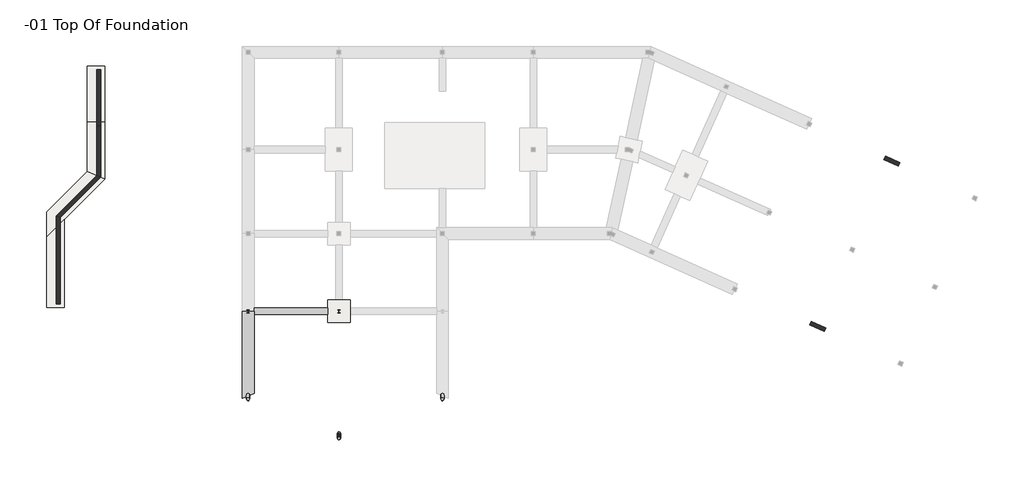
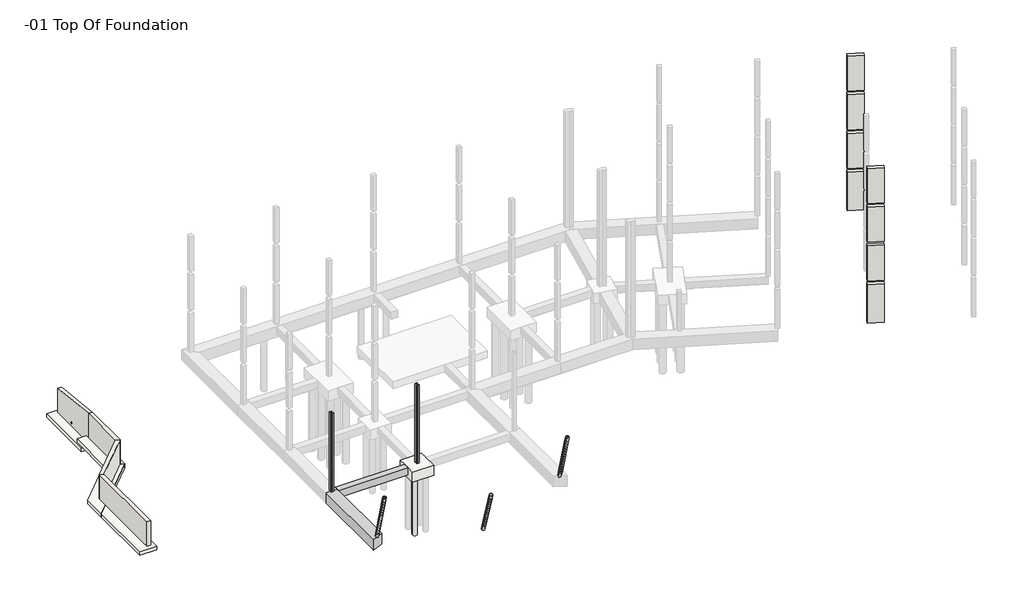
# One storey, part 1 of 4: 6 walls, 5 columns, 4 footings, 2 beams, 2 slabs.
"""IFC4 building model written with IfcOpenShell, lengths in millimetres."""

from ifc_helpers import new_model, si_unit, point, frame, frame_2d, origin, place, context, project, spatial, polyline, circle_curve, ellipse_curve, trimmed, segment, composite_curve, outline, extrude, faceted_brep, transform, mapped, element, save
from ifc_brep_helpers import plane_surface, cylinder_surface, revolved_surface, advanced_brep
from components import w_shapes_column_w10x33_60aa4128

model = new_model("IFC4")

# Units and contexts
model_context = context("Model", 3, world=origin())
ifc_project = project(units=[si_unit("LENGTHUNIT", "METRE", prefix="MILLI")], contexts=[model_context])

# Site, building, storey
site = spatial("IfcSite", under=ifc_project)
building = spatial("IfcBuilding", under=site)
storey = spatial("IfcBuildingStorey", under=building, Name="-01 Top Of Foundation", Elevation=-304.8)

# Beams
placement = place(None, origin())
element("IfcBeam", 1, ObjectType="Ring Beam : 12 x 24", at=placement, inside=storey, context=model_context, shape_type="Brep", body=[
    faceted_brep([(457.2, -19748.5, -304.8), (457.2, -20002.5, -304.8), (457.2, -20256.5, -304.8), (6146.8, -20256.5, -304.8), (6146.8, -19748.5, -304.8), (457.2, -19748.5, -889.0), (6146.8, -19748.5, -889.0), (457.2, -19773.9, -914.4), (6146.8, -19773.9, -914.4), (457.2, -20231.1, -914.4), (6146.8, -20231.1, -914.4), (457.2, -20256.5, -889.0), (6146.8, -20256.5, -889.0)], [[[0, 1, 2, 3, 4]], [[5, 0, 4, 6]], [[7, 5, 6, 8]], [[9, 7, 8, 10]], [[11, 9, 10, 12]], [[2, 11, 12, 3]], [[9, 11, 2, 1, 0, 5, 7]], [[4, 3, 12, 10, 8, 6]]]),
])
element("IfcBeam", 2, ObjectType="Ring Beam : 16 x 32", at=placement, inside=storey, context=model_context, shape_type="Brep", body=[
    faceted_brep([(-457.2, -26723.3402351, -304.8), (457.2, -26332.3874204, -304.8), (457.2, -20256.5, -304.8), (457.2, -20002.5, -304.8), (-457.2, -20002.5, -304.8), (-457.2, -26723.3402351, -1193.8), (-457.2, -20002.5, -1193.8), (-431.8, -26712.4804347, -1219.2), (-431.8, -20002.5, -1219.2), (431.8, -26343.2472208, -1219.2), (431.8, -20002.5, -1219.2), (457.2, -26332.3874204, -1193.8), (457.2, -20002.5, -1193.8)], [[[0, 1, 2, 3, 4]], [[5, 0, 4, 6]], [[7, 5, 6, 8]], [[9, 7, 8, 10]], [[11, 9, 10, 12]], [[1, 11, 12, 3, 2]], [[1, 0, 5, 7, 9, 11]], [[3, 12, 10, 8, 6, 4]]]),
])

# Columns
element("IfcColumn", 3, ObjectType="HSS Round-Column : HSS10X.500", at=placement, inside=storey, context=model_context, shape_type="AdvancedBrep", body=[
    advanced_brep(
    [(6883.4, -29416.3085227, -359.2102448), (7137.4, -29416.3085227, -359.2102448), (6896.1, -29416.3085227, -359.2102448), (7124.7, -29416.3085227, -359.2102448), (6883.4, -30549.160265, 3300.5302448), (7137.4, -30549.160265, 3300.5302448), (6896.1, -30549.160265, 3300.5302448), (7124.7, -30549.160265, 3300.5302448)],
    [
        (0, 1, circle_curve(frame((7010.4, -29416.3085227, -359.2102448), z_axis=(0.0, 0.29570157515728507, -0.9552803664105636), x_axis=(1.0, 0.0, 0.0)), 127.0)),
        (1, 0, circle_curve(frame((7010.4, -29416.3085227, -359.2102448), z_axis=(0.0, 0.29570157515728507, -0.9552803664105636), x_axis=(1.0, 0.0, 0.0)), 127.0)),
        (2, 3, circle_curve(frame((7010.4, -29416.3085227, -359.2102448), z_axis=(0.0, -0.29570157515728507, 0.9552803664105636), x_axis=(1.0, 0.0, 0.0)), 114.3)),
        (3, 2, circle_curve(frame((7010.4, -29416.3085227, -359.2102448), z_axis=(0.0, -0.29570157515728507, 0.9552803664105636), x_axis=(1.0, 0.0, 0.0)), 114.3)),
        (4, 5, circle_curve(frame((7010.4, -30549.160265, 3300.5302448), z_axis=(0.0, 0.29570157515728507, -0.9552803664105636), x_axis=(1.0, 0.0, 0.0)), 127.0)),
        (5, 1),
        (0, 4),
        (5, 4, circle_curve(frame((7010.4, -30549.160265, 3300.5302448), z_axis=(0.0, 0.29570157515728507, -0.9552803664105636), x_axis=(1.0, 0.0, 0.0)), 127.0)),
        (6, 7, circle_curve(frame((7010.4, -30549.160265, 3300.5302448), z_axis=(0.0, -0.29570157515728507, 0.9552803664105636), x_axis=(1.0, 0.0, 0.0)), 114.3)),
        (7, 3),
        (2, 6),
        (7, 6, circle_curve(frame((7010.4, -30549.160265, 3300.5302448), z_axis=(0.0, -0.29570157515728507, 0.9552803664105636), x_axis=(1.0, 0.0, 0.0)), 114.3)),
    ],
    [
        plane_surface(frame((7137.4, -29416.3085227, -359.2102448), z_axis=(0.0, 0.295701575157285, -0.9552803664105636), x_axis=(0.0, -0.9552803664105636, -0.295701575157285))),
        cylinder_surface(frame((7010.4, -29416.3085227, -359.2102448), z_axis=(0.0, -0.29570157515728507, 0.9552803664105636), x_axis=(1.0, 0.0, 0.0)), 127.0),
        revolved_surface(polyline([(7124.7, -29416.308522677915, -359.21024479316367), (7124.7, -30549.160264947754, 3300.530244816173)]), (7010.4, -29527.5, 0.0), (0.0, 0.29570157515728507, -0.9552803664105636)),
        plane_surface(frame((7137.4, -30549.160265, 3300.5302448), z_axis=(0.0, -0.295701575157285, 0.9552803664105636), x_axis=(0.0, 0.9552803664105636, 0.295701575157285))),
    ],
    [
        (0, [[1, 2], [3, 4]]),
        (1, [[5, 6, -1, 7]]),
        (1, [[8, -7, -2, -6]]),
        (2, [[9, 10, -3, 11]]),
        (2, [[12, -11, -4, -10]]),
        (3, [[-8, -5], [-12, -9]]),
    ],
),
    advanced_brep(
    [(6883.4, -30549.160265, 3300.5302448), (7137.4, -30549.160265, 3300.5302448), (6896.1, -30549.160265, 3300.5302448), (7124.7, -30549.160265, 3300.5302448), (7137.4, -29527.5, 0.0), (6883.4, -29527.5, 0.0), (7124.7, -29527.5, 0.0), (6896.1, -29527.5, 0.0)],
    [
        (0, 1, circle_curve(frame((7010.4, -30549.160265, 3300.5302448), z_axis=(0.0, -0.29570157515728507, 0.9552803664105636), x_axis=(1.0, 0.0, 0.0)), 127.0)),
        (1, 0, circle_curve(frame((7010.4, -30549.160265, 3300.5302448), z_axis=(0.0, -0.29570157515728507, 0.9552803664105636), x_axis=(1.0, 0.0, 0.0)), 127.0)),
        (2, 3, circle_curve(frame((7010.4, -30549.160265, 3300.5302448), z_axis=(0.0, 0.29570157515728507, -0.9552803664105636), x_axis=(1.0, 0.0, 0.0)), 114.3)),
        (3, 2, circle_curve(frame((7010.4, -30549.160265, 3300.5302448), z_axis=(0.0, 0.29570157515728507, -0.9552803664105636), x_axis=(1.0, 0.0, 0.0)), 114.3)),
        (1, 4),
        (4, 5, ellipse_curve(frame((7010.4, -29527.5, 0.0), z_axis=(0.0, 0.0, 1.0), x_axis=(0.0, -1.0, 0.0)), 132.9452635, 127.0)),
        (5, 0),
        (5, 4, ellipse_curve(frame((7010.4, -29527.5, 0.0), z_axis=(0.0, 0.0, 1.0), x_axis=(0.0, -1.0, 0.0)), 132.9452635, 127.0)),
        (3, 6),
        (6, 7, ellipse_curve(frame((7010.4, -29527.5, 0.0), z_axis=(0.0, 0.0, -1.0), x_axis=(0.0, 1.0, 0.0)), 119.6507371, 114.3)),
        (7, 2),
        (7, 6, ellipse_curve(frame((7010.4, -29527.5, 0.0), z_axis=(0.0, 0.0, -1.0), x_axis=(0.0, 1.0, 0.0)), 119.6507371, 114.3)),
    ],
    [
        plane_surface(frame((7137.4, -30549.160265, 3300.5302448), z_axis=(0.0, -0.295701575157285, 0.9552803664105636), x_axis=(0.0, 0.9552803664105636, 0.295701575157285))),
        cylinder_surface(frame((7010.4, -29416.3085227, -359.2102448), z_axis=(0.0, -0.29570157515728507, 0.9552803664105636), x_axis=(1.0, 0.0, 0.0)), 127.0),
        revolved_surface(polyline([(7124.7, -29517.037808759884, -33.798690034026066), (7124.7, -30549.160264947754, 3300.530244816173)]), (7010.4, -29527.5, 0.0), (0.0, 0.29570157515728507, -0.9552803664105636)),
        plane_surface(frame((7010.4, -29527.5, 0.0), z_axis=(0.0, 0.0, -1.0), x_axis=(1.0, 0.0, 0.0))),
    ],
    [
        (0, [[1, 2], [3, 4]]),
        (1, [[-2, 5, 6, 7]]),
        (1, [[-1, -7, 8, -5]]),
        (2, [[-4, 9, 10, 11]]),
        (2, [[-3, -11, 12, -9]]),
        (3, [[-6, -8], [-10, -12]]),
    ],
),
    advanced_brep(
    [(7137.4, -30437.9687876, 2941.32), (7137.4, -29527.5, 0.0), (6883.4, -29527.5, 0.0), (6883.4, -30437.9687876, 2941.32), (6896.1, -29527.5, 0.0), (7124.7, -29527.5, 0.0), (7124.7, -30437.9687876, 2941.32), (6896.1, -30437.9687876, 2941.32)],
    [
        (0, 1),
        (1, 2, ellipse_curve(frame((7010.4, -29527.5, 0.0), z_axis=(0.0, 0.0, 1.0), x_axis=(0.0, -1.0, 0.0)), 132.9452635, 127.0)),
        (2, 3),
        (3, 0, ellipse_curve(frame((7010.4, -30437.9687876, 2941.32), z_axis=(0.0, 0.0, -1.0), x_axis=(0.0, -1.0, 0.0)), 132.9452635, 127.0)),
        (2, 1, ellipse_curve(frame((7010.4, -29527.5, 0.0), z_axis=(0.0, 0.0, 1.0), x_axis=(0.0, -1.0, 0.0)), 132.9452635, 127.0)),
        (0, 3, ellipse_curve(frame((7010.4, -30437.9687876, 2941.32), z_axis=(0.0, 0.0, -1.0), x_axis=(0.0, -1.0, 0.0)), 132.9452635, 127.0)),
        (4, 5, ellipse_curve(frame((7010.4, -29527.5, 0.0), z_axis=(0.0, 0.0, 1.0), x_axis=(0.0, 1.0, 0.0)), 119.6507371, 114.3)),
        (5, 4, ellipse_curve(frame((7010.4, -29527.5, 0.0), z_axis=(0.0, 0.0, 1.0), x_axis=(0.0, 1.0, 0.0)), 119.6507371, 114.3)),
        (6, 5),
        (4, 7),
        (7, 6, ellipse_curve(frame((7010.4, -30437.9687876, 2941.32), z_axis=(0.0, 0.0, 1.0), x_axis=(0.0, 1.0, 0.0)), 119.6507371, 114.3)),
        (6, 7, ellipse_curve(frame((7010.4, -30437.9687876, 2941.32), z_axis=(0.0, 0.0, 1.0), x_axis=(0.0, 1.0, 0.0)), 119.6507371, 114.3)),
    ],
    [
        cylinder_surface(frame((7010.4, -29416.3085227, -359.2102448), z_axis=(0.0, -0.29570157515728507, 0.9552803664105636), x_axis=(1.0, 0.0, 0.0)), 127.0),
        plane_surface(frame((7010.4, -29527.5, 0.0), z_axis=(0.0, 0.0, -1.0), x_axis=(1.0, 0.0, 0.0))),
        revolved_surface(polyline([(7124.7, -29517.037808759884, -33.798690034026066), (7124.7, -30448.43097885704, 2975.1186900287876)]), (7010.4, -29527.5, 0.0), (0.0, 0.29570157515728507, -0.9552803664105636)),
        plane_surface(frame((7010.4, -30441.9, 2941.32), z_axis=(0.0, 0.0, 1.0), x_axis=(-1.0, 0.0, 0.0))),
    ],
    [
        (0, [[1, 2, 3, 4]]),
        (0, [[-3, 5, -1, 6]]),
        (1, [[-2, -5], [7, 8]]),
        (2, [[9, -7, 10, 11]]),
        (2, [[-10, -8, -9, 12]]),
        (3, [[-4, -6], [-11, -12]]),
    ],
),
])
element("IfcColumn", 4, ObjectType="HSS Round-Column : HSS10X.500", at=placement, inside=storey, context=model_context, shape_type="AdvancedBrep", body=[
    advanced_brep(
    [(-127.0, -26432.3335696, -359.2102448), (127.0, -26432.3335696, -359.2102448), (-114.3, -26432.3335696, -359.2102448), (114.3, -26432.3335696, -359.2102448), (-127.0, -27542.6664304, 3712.0102448), (127.0, -27542.6664304, 3712.0102448), (-114.3, -27542.6664304, 3712.0102448), (114.3, -27542.6664304, 3712.0102448)],
    [
        (0, 1, circle_curve(frame((0.0, -26432.3335696, -359.2102448), z_axis=(0.0, 0.26311740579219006, -0.9647638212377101), x_axis=(1.0000000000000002, 0.0, 0.0)), 127.0)),
        (1, 0, circle_curve(frame((0.0, -26432.3335696, -359.2102448), z_axis=(0.0, 0.26311740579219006, -0.9647638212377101), x_axis=(1.0000000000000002, 0.0, 0.0)), 127.0)),
        (2, 3, circle_curve(frame((0.0, -26432.3335696, -359.2102448), z_axis=(0.0, -0.26311740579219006, 0.9647638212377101), x_axis=(1.0000000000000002, 0.0, 0.0)), 114.3)),
        (3, 2, circle_curve(frame((0.0, -26432.3335696, -359.2102448), z_axis=(0.0, -0.26311740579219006, 0.9647638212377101), x_axis=(1.0000000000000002, 0.0, 0.0)), 114.3)),
        (4, 5, circle_curve(frame((0.0, -27542.6664304, 3712.0102448), z_axis=(0.0, 0.26311740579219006, -0.9647638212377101), x_axis=(1.0000000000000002, 0.0, 0.0)), 127.0)),
        (5, 1),
        (0, 4),
        (5, 4, circle_curve(frame((0.0, -27542.6664304, 3712.0102448), z_axis=(0.0, 0.26311740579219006, -0.9647638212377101), x_axis=(1.0000000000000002, 0.0, 0.0)), 127.0)),
        (6, 7, circle_curve(frame((0.0, -27542.6664304, 3712.0102448), z_axis=(0.0, -0.26311740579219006, 0.9647638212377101), x_axis=(1.0000000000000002, 0.0, 0.0)), 114.3)),
        (7, 3),
        (2, 6),
        (7, 6, circle_curve(frame((0.0, -27542.6664304, 3712.0102448), z_axis=(0.0, -0.26311740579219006, 0.9647638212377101), x_axis=(1.0000000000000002, 0.0, 0.0)), 114.3)),
    ],
    [
        plane_surface(frame((127.0, -26432.3335696, -359.2102448), z_axis=(0.0, 0.26311740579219, -0.96476382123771), x_axis=(0.0, -0.96476382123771, -0.26311740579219))),
        cylinder_surface(frame((0.0, -26432.3335696, -359.2102448), z_axis=(0.0, -0.26311740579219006, 0.9647638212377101), x_axis=(1.0000000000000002, 0.0, 0.0)), 127.0),
        revolved_surface(polyline([(114.30000000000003, -26432.33356959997, -359.21024479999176), (114.30000000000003, -27542.666430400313, 3712.0102447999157)]), (0.0, -26530.3, 0.0), (0.0, 0.26311740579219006, -0.9647638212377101)),
        plane_surface(frame((127.0, -27542.6664304, 3712.0102448), z_axis=(0.0, -0.26311740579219, 0.96476382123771), x_axis=(0.0, 0.96476382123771, 0.26311740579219))),
    ],
    [
        (0, [[1, 2], [3, 4]]),
        (1, [[5, 6, -1, 7]]),
        (1, [[8, -7, -2, -6]]),
        (2, [[9, 10, -3, 11]]),
        (2, [[12, -11, -4, -10]]),
        (3, [[-8, -5], [-12, -9]]),
    ],
),
    advanced_brep(
    [(-127.0, -27542.6664304, 3712.0102448), (127.0, -27542.6664304, 3712.0102448), (-114.3, -27542.6664304, 3712.0102448), (114.3, -27542.6664304, 3712.0102448), (127.0, -26530.3, 0.0), (-127.0, -26530.3, 0.0), (114.3, -26530.3, 0.0), (-114.3, -26530.3, 0.0)],
    [
        (0, 1, circle_curve(frame((0.0, -27542.6664304, 3712.0102448), z_axis=(0.0, -0.26311740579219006, 0.9647638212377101), x_axis=(1.0000000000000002, 0.0, 0.0)), 127.0)),
        (1, 0, circle_curve(frame((0.0, -27542.6664304, 3712.0102448), z_axis=(0.0, -0.26311740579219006, 0.9647638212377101), x_axis=(1.0000000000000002, 0.0, 0.0)), 127.0)),
        (2, 3, circle_curve(frame((0.0, -27542.6664304, 3712.0102448), z_axis=(0.0, 0.26311740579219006, -0.9647638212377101), x_axis=(1.0000000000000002, 0.0, 0.0)), 114.3)),
        (3, 2, circle_curve(frame((0.0, -27542.6664304, 3712.0102448), z_axis=(0.0, 0.26311740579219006, -0.9647638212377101), x_axis=(1.0000000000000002, 0.0, 0.0)), 114.3)),
        (1, 4),
        (4, 5, ellipse_curve(frame((0.0, -26530.3, 0.0), z_axis=(0.0, 0.0, 1.0), x_axis=(0.0, -1.0, 0.0)), 131.6384354, 127.0)),
        (5, 0),
        (5, 4, ellipse_curve(frame((0.0, -26530.3, 0.0), z_axis=(0.0, 0.0, 1.0), x_axis=(0.0, -1.0, 0.0)), 131.6384354, 127.0)),
        (3, 6),
        (6, 7, ellipse_curve(frame((0.0, -26530.3, 0.0), z_axis=(0.0, 0.0, -1.0), x_axis=(0.0, 1.0, 0.0)), 118.4745919, 114.3)),
        (7, 2),
        (7, 6, ellipse_curve(frame((0.0, -26530.3, 0.0), z_axis=(0.0, 0.0, -1.0), x_axis=(0.0, 1.0, 0.0)), 118.4745919, 114.3)),
    ],
    [
        plane_surface(frame((127.0, -27542.6664304, 3712.0102448), z_axis=(0.0, -0.26311740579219, 0.96476382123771), x_axis=(0.0, 0.96476382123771, 0.26311740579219))),
        cylinder_surface(frame((0.0, -26432.3335696, -359.2102448), z_axis=(0.0, -0.26311740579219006, 0.9647638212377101), x_axis=(1.0000000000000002, 0.0, 0.0)), 127.0),
        revolved_surface(polyline([(114.30000000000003, -26522.097912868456, -30.074319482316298), (114.30000000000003, -27542.666430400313, 3712.0102447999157)]), (0.0, -26530.3, 0.0), (0.0, 0.26311740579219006, -0.9647638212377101)),
        plane_surface(frame((0.0, -26530.3, 0.0), z_axis=(0.0, 0.0, -1.0), x_axis=(1.0, 0.0, 0.0))),
    ],
    [
        (0, [[1, 2], [3, 4]]),
        (1, [[-2, 5, 6, 7]]),
        (1, [[-1, -7, 8, -5]]),
        (2, [[-4, 9, 10, 11]]),
        (2, [[-3, -11, 12, -9]]),
        (3, [[-6, -8], [-10, -12]]),
    ],
),
    advanced_brep(
    [(127.0, -27444.7, 3352.8), (127.0, -26530.3, 0.0), (-127.0, -26530.3, 0.0), (-127.0, -27444.7, 3352.8), (-114.3, -26530.3, 0.0), (114.3, -26530.3, 0.0), (114.3, -27444.7, 3352.8), (-114.3, -27444.7, 3352.8)],
    [
        (0, 1),
        (1, 2, ellipse_curve(frame((0.0, -26530.3, 0.0), z_axis=(0.0, 0.0, 1.0), x_axis=(0.0, -1.0, 0.0)), 131.6384354, 127.0)),
        (2, 3),
        (3, 0, ellipse_curve(frame((0.0, -27444.7, 3352.8), z_axis=(0.0, 0.0, -1.0), x_axis=(0.0, -1.0, 0.0)), 131.6384354, 127.0)),
        (2, 1, ellipse_curve(frame((0.0, -26530.3, 0.0), z_axis=(0.0, 0.0, 1.0), x_axis=(0.0, -1.0, 0.0)), 131.6384354, 127.0)),
        (0, 3, ellipse_curve(frame((0.0, -27444.7, 3352.8), z_axis=(0.0, 0.0, -1.0), x_axis=(0.0, -1.0, 0.0)), 131.6384354, 127.0)),
        (4, 5, ellipse_curve(frame((0.0, -26530.3, 0.0), z_axis=(0.0, 0.0, 1.0), x_axis=(0.0, 1.0, 0.0)), 118.4745919, 114.3)),
        (5, 4, ellipse_curve(frame((0.0, -26530.3, 0.0), z_axis=(0.0, 0.0, 1.0), x_axis=(0.0, 1.0, 0.0)), 118.4745919, 114.3)),
        (6, 5),
        (4, 7),
        (7, 6, ellipse_curve(frame((0.0, -27444.7, 3352.8), z_axis=(0.0, 0.0, 1.0), x_axis=(0.0, 1.0, 0.0)), 118.4745919, 114.3)),
        (6, 7, ellipse_curve(frame((0.0, -27444.7, 3352.8), z_axis=(0.0, 0.0, 1.0), x_axis=(0.0, 1.0, 0.0)), 118.4745919, 114.3)),
    ],
    [
        cylinder_surface(frame((0.0, -26432.3335696, -359.2102448), z_axis=(0.0, -0.26311740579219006, 0.9647638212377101), x_axis=(1.0000000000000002, 0.0, 0.0)), 127.0),
        plane_surface(frame((0.0, -26530.3, 0.0), z_axis=(0.0, 0.0, -1.0), x_axis=(1.0, 0.0, 0.0))),
        revolved_surface(polyline([(114.30000000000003, -26522.097912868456, -30.074319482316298), (114.30000000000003, -27452.902087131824, 3382.8743194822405)]), (0.0, -26530.3, 0.0), (0.0, 0.26311740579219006, -0.9647638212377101)),
        plane_surface(frame((0.0, -27444.7, 3352.8), z_axis=(0.0, 0.0, 1.0), x_axis=(-1.0, 0.0, 0.0))),
    ],
    [
        (0, [[1, 2, 3, 4]]),
        (0, [[-3, 5, -1, 6]]),
        (1, [[-2, -5], [7, 8]]),
        (2, [[9, -7, 10, 11]]),
        (2, [[-10, -8, -9, 12]]),
        (3, [[-4, -6], [-11, -12]]),
    ],
),
])
element("IfcColumn", 5, ObjectType="HSS Round-Column : HSS10X.500", at=placement, inside=storey, context=model_context, shape_type="AdvancedBrep", body=[
    advanced_brep(
    [(14871.7, -26432.3335696, -359.2102448), (15125.7, -26432.3335696, -359.2102448), (14884.4, -26432.3335696, -359.2102448), (15113.0, -26432.3335696, -359.2102448), (14871.7, -27542.6664304, 3712.0102448), (15125.7, -27542.6664304, 3712.0102448), (14884.4, -27542.6664304, 3712.0102448), (15113.0, -27542.6664304, 3712.0102448)],
    [
        (0, 1, circle_curve(frame((14998.7, -26432.3335696, -359.2102448), z_axis=(0.0, 0.26311740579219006, -0.9647638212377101), x_axis=(1.0000000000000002, 0.0, 0.0)), 127.0)),
        (1, 0, circle_curve(frame((14998.7, -26432.3335696, -359.2102448), z_axis=(0.0, 0.26311740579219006, -0.9647638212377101), x_axis=(1.0000000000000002, 0.0, 0.0)), 127.0)),
        (2, 3, circle_curve(frame((14998.7, -26432.3335696, -359.2102448), z_axis=(0.0, -0.26311740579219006, 0.9647638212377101), x_axis=(1.0000000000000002, 0.0, 0.0)), 114.3)),
        (3, 2, circle_curve(frame((14998.7, -26432.3335696, -359.2102448), z_axis=(0.0, -0.26311740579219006, 0.9647638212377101), x_axis=(1.0000000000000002, 0.0, 0.0)), 114.3)),
        (4, 5, circle_curve(frame((14998.7, -27542.6664304, 3712.0102448), z_axis=(0.0, 0.26311740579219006, -0.9647638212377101), x_axis=(1.0000000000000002, 0.0, 0.0)), 127.0)),
        (5, 1),
        (0, 4),
        (5, 4, circle_curve(frame((14998.7, -27542.6664304, 3712.0102448), z_axis=(0.0, 0.26311740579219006, -0.9647638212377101), x_axis=(1.0000000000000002, 0.0, 0.0)), 127.0)),
        (6, 7, circle_curve(frame((14998.7, -27542.6664304, 3712.0102448), z_axis=(0.0, -0.26311740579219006, 0.9647638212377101), x_axis=(1.0000000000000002, 0.0, 0.0)), 114.3)),
        (7, 3),
        (2, 6),
        (7, 6, circle_curve(frame((14998.7, -27542.6664304, 3712.0102448), z_axis=(0.0, -0.26311740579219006, 0.9647638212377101), x_axis=(1.0000000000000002, 0.0, 0.0)), 114.3)),
    ],
    [
        plane_surface(frame((15125.7, -26432.3335696, -359.2102448), z_axis=(0.0, 0.26311740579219, -0.96476382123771), x_axis=(0.0, -0.96476382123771, -0.26311740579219))),
        cylinder_surface(frame((14998.7, -26432.3335696, -359.2102448), z_axis=(0.0, -0.26311740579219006, 0.9647638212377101), x_axis=(1.0000000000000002, 0.0, 0.0)), 127.0),
        revolved_surface(polyline([(15113.0, -26432.33356959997, -359.21024479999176), (15113.0, -27542.666430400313, 3712.0102447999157)]), (14998.7, -26530.3, 0.0), (0.0, 0.26311740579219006, -0.9647638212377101)),
        plane_surface(frame((15125.7, -27542.6664304, 3712.0102448), z_axis=(0.0, -0.26311740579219, 0.96476382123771), x_axis=(0.0, 0.96476382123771, 0.26311740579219))),
    ],
    [
        (0, [[1, 2], [3, 4]]),
        (1, [[5, 6, -1, 7]]),
        (1, [[8, -7, -2, -6]]),
        (2, [[9, 10, -3, 11]]),
        (2, [[12, -11, -4, -10]]),
        (3, [[-8, -5], [-12, -9]]),
    ],
),
    advanced_brep(
    [(14871.7, -27542.6664304, 3712.0102448), (15125.7, -27542.6664304, 3712.0102448), (14884.4, -27542.6664304, 3712.0102448), (15113.0, -27542.6664304, 3712.0102448), (15125.7, -26530.3, 0.0), (14871.7, -26530.3, 0.0), (15113.0, -26530.3, 0.0), (14884.4, -26530.3, 0.0)],
    [
        (0, 1, circle_curve(frame((14998.7, -27542.6664304, 3712.0102448), z_axis=(0.0, -0.26311740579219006, 0.9647638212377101), x_axis=(1.0000000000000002, 0.0, 0.0)), 127.0)),
        (1, 0, circle_curve(frame((14998.7, -27542.6664304, 3712.0102448), z_axis=(0.0, -0.26311740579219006, 0.9647638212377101), x_axis=(1.0000000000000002, 0.0, 0.0)), 127.0)),
        (2, 3, circle_curve(frame((14998.7, -27542.6664304, 3712.0102448), z_axis=(0.0, 0.26311740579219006, -0.9647638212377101), x_axis=(1.0000000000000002, 0.0, 0.0)), 114.3)),
        (3, 2, circle_curve(frame((14998.7, -27542.6664304, 3712.0102448), z_axis=(0.0, 0.26311740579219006, -0.9647638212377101), x_axis=(1.0000000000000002, 0.0, 0.0)), 114.3)),
        (1, 4),
        (4, 5, ellipse_curve(frame((14998.7, -26530.3, 0.0), z_axis=(0.0, 0.0, 1.0), x_axis=(0.0, -1.0, 0.0)), 131.6384354, 127.0)),
        (5, 0),
        (5, 4, ellipse_curve(frame((14998.7, -26530.3, 0.0), z_axis=(0.0, 0.0, 1.0), x_axis=(0.0, -1.0, 0.0)), 131.6384354, 127.0)),
        (3, 6),
        (6, 7, ellipse_curve(frame((14998.7, -26530.3, 0.0), z_axis=(0.0, 0.0, -1.0), x_axis=(0.0, 1.0, 0.0)), 118.4745919, 114.3)),
        (7, 2),
        (7, 6, ellipse_curve(frame((14998.7, -26530.3, 0.0), z_axis=(0.0, 0.0, -1.0), x_axis=(0.0, 1.0, 0.0)), 118.4745919, 114.3)),
    ],
    [
        plane_surface(frame((15125.7, -27542.6664304, 3712.0102448), z_axis=(0.0, -0.26311740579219, 0.96476382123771), x_axis=(0.0, 0.96476382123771, 0.26311740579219))),
        cylinder_surface(frame((14998.7, -26432.3335696, -359.2102448), z_axis=(0.0, -0.26311740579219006, 0.9647638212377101), x_axis=(1.0000000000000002, 0.0, 0.0)), 127.0),
        revolved_surface(polyline([(15113.0, -26522.097912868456, -30.074319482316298), (15113.0, -27542.666430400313, 3712.0102447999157)]), (14998.7, -26530.3, 0.0), (0.0, 0.26311740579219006, -0.9647638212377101)),
        plane_surface(frame((14998.7, -26530.3, 0.0), z_axis=(0.0, 0.0, -1.0), x_axis=(1.0, 0.0, 0.0))),
    ],
    [
        (0, [[1, 2], [3, 4]]),
        (1, [[-2, 5, 6, 7]]),
        (1, [[-1, -7, 8, -5]]),
        (2, [[-4, 9, 10, 11]]),
        (2, [[-3, -11, 12, -9]]),
        (3, [[-6, -8], [-10, -12]]),
    ],
),
    advanced_brep(
    [(15125.7, -27444.7, 3352.8), (15125.7, -26530.3, 0.0), (14871.7, -26530.3, 0.0), (14871.7, -27444.7, 3352.8), (14884.4, -26530.3, 0.0), (15113.0, -26530.3, 0.0), (15113.0, -27444.7, 3352.8), (14884.4, -27444.7, 3352.8)],
    [
        (0, 1),
        (1, 2, ellipse_curve(frame((14998.7, -26530.3, 0.0), z_axis=(0.0, 0.0, 1.0), x_axis=(0.0, -1.0, 0.0)), 131.6384354, 127.0)),
        (2, 3),
        (3, 0, ellipse_curve(frame((14998.7, -27444.7, 3352.8), z_axis=(0.0, 0.0, -1.0), x_axis=(0.0, -1.0, 0.0)), 131.6384354, 127.0)),
        (2, 1, ellipse_curve(frame((14998.7, -26530.3, 0.0), z_axis=(0.0, 0.0, 1.0), x_axis=(0.0, -1.0, 0.0)), 131.6384354, 127.0)),
        (0, 3, ellipse_curve(frame((14998.7, -27444.7, 3352.8), z_axis=(0.0, 0.0, -1.0), x_axis=(0.0, -1.0, 0.0)), 131.6384354, 127.0)),
        (4, 5, ellipse_curve(frame((14998.7, -26530.3, 0.0), z_axis=(0.0, 0.0, 1.0), x_axis=(0.0, 1.0, 0.0)), 118.4745919, 114.3)),
        (5, 4, ellipse_curve(frame((14998.7, -26530.3, 0.0), z_axis=(0.0, 0.0, 1.0), x_axis=(0.0, 1.0, 0.0)), 118.4745919, 114.3)),
        (6, 5),
        (4, 7),
        (7, 6, ellipse_curve(frame((14998.7, -27444.7, 3352.8), z_axis=(0.0, 0.0, 1.0), x_axis=(0.0, 1.0, 0.0)), 118.4745919, 114.3)),
        (6, 7, ellipse_curve(frame((14998.7, -27444.7, 3352.8), z_axis=(0.0, 0.0, 1.0), x_axis=(0.0, 1.0, 0.0)), 118.4745919, 114.3)),
    ],
    [
        cylinder_surface(frame((14998.7, -26432.3335696, -359.2102448), z_axis=(0.0, -0.26311740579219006, 0.9647638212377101), x_axis=(1.0000000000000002, 0.0, 0.0)), 127.0),
        plane_surface(frame((14998.7, -26530.3, 0.0), z_axis=(0.0, 0.0, -1.0), x_axis=(1.0, 0.0, 0.0))),
        revolved_surface(polyline([(15113.0, -26522.097912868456, -30.074319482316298), (15113.0, -27452.902087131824, 3382.8743194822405)]), (14998.7, -26530.3, 0.0), (0.0, 0.26311740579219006, -0.9647638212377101)),
        plane_surface(frame((14998.7, -27444.7, 3352.8), z_axis=(0.0, 0.0, 1.0), x_axis=(-1.0, 0.0, 0.0))),
    ],
    [
        (0, [[1, 2, 3, 4]]),
        (0, [[-3, 5, -1, 6]]),
        (1, [[-2, -5], [7, 8]]),
        (2, [[9, -7, 10, 11]]),
        (2, [[-10, -8, -9, 12]]),
        (3, [[-4, -6], [-11, -12]]),
    ],
),
])
w_shapes_column_w10x33_shape = w_shapes_column_w10x33_60aa4128(model_context)
element("IfcColumn", 6, ObjectType="W Shapes-Column : W10X33", at=placement, inside=storey, context=model_context, shape_type="MappedRepresentation", body=[
    mapped(w_shapes_column_w10x33_shape, transform((0.0, -20002.5, 0.0), x_axis=(1.0, 0.0, 0.0), y_axis=(0.0, 1.0, 0.0), z_axis=(0.0, 0.0, 1.0))),
])
element("IfcColumn", 7, ObjectType="W Shapes-Column : W10X33", at=placement, inside=storey, context=model_context, shape_type="MappedRepresentation", body=[
    mapped(w_shapes_column_w10x33_shape, transform((7010.4, -20002.5, 0.0), x_axis=(1.0, 0.0, 0.0), y_axis=(0.0, 1.0, 0.0), z_axis=(0.0, 0.0, 1.0))),
])

# Footings
element("IfcFooting", 8, ObjectType="Bearing Footing - 36\" x 12\"", at=placement, inside=storey, context=model_context, shape_type="SweptSolid", body=[
    extrude(outline(polyline([(-12427.9493295, -1047.6002614), (-11056.3493295, -1047.6002614), (-11056.3493295, -6001.5293915), (-12427.9493295, -6001.5293915), (-12427.9493295, -1047.6002614)])), frame((0.0, 0.0, -1066.8), z_axis=(0.0, 0.0, 1.0), x_axis=(1.0, 0.0, 0.0)), (0.0, 0.0, 1.0), 304.8),
])
element("IfcFooting", 9, ObjectType="Bearing Footing - 36\" x 12\"", at=placement, inside=storey, context=model_context, shape_type="Brep", body=[
    faceted_brep([(-12427.9493295, -9203.24338, -304.8), (-15553.0784596, -12328.3725101, -304.8), (-15553.0784596, -14268.1078323, -304.8), (-14181.4784596, -12896.5078323, -304.8), (-11056.3493295, -9771.3787021, -304.8), (-11056.3493295, -9771.3787021, -609.6), (-15553.0784596, -14268.1078323, -609.6), (-14181.4784596, -12896.5078323, -609.6), (-12427.9493295, -9203.24338, -609.6), (-15553.0784596, -12328.3725101, -609.6)], [[[0, 1, 2, 3, 4]], [[5, 4, 3, 2, 6, 7]], [[8, 5, 7, 6, 9]], [[0, 8, 9, 1]], [[2, 1, 9, 6]], [[0, 4, 5, 8]]]),
])
element("IfcFooting", 10, ObjectType="Bearing Footing - 36\" x 12\"", at=placement, inside=storey, context=model_context, shape_type="SweptSolid", body=[
    extrude(outline(polyline([(-14181.4784596, -19717.5293915), (-15553.0784596, -19717.5293915), (-15553.0784596, -14268.1078323), (-14181.4784596, -12896.5078323), (-14181.4784596, -19717.5293915)])), frame((0.0, 0.0, -609.6), z_axis=(0.0, 0.0, 1.0), x_axis=(1.0, 0.0, 0.0)), (0.0, 0.0, 1.0), 304.8),
])
element("IfcFooting", 11, ObjectType="Bearing Footing - 36\" x 12\"", at=placement, inside=storey, context=model_context, shape_type="SweptSolid", body=[
    extrude(outline(polyline([(-11056.3493295, -5391.9293915), (-11056.3493295, -9771.3787021), (-12427.9493295, -9203.24338), (-12427.9493295, -5391.9293915), (-11665.9493295, -5391.9293915), (-11665.9493295, -5696.7293915), (-11361.1493295, -5696.7293915), (-11361.1493295, -5391.9293915), (-11056.3493295, -5391.9293915)])), frame((0.0, 0.0, -609.6), z_axis=(0.0, 0.0, 1.0), x_axis=(1.0, 0.0, 0.0)), (0.0, 0.0, 1.0), 304.8),
])

# Slabs
element("IfcSlab", 12, ObjectType="Pile Cap-4 Pile : 68\"x68\"x35\"", at=placement, inside=storey, context=model_context, shape_type="Brep", body=[
    faceted_brep([(7874.0, -19138.9, -304.8), (7264.4, -19138.9, -304.8), (6756.4, -19138.9, -304.8), (6146.8, -19138.9, -304.8), (6146.8, -19748.5, -304.8), (6146.8, -20256.5, -304.8), (6146.8, -20866.1, -304.8), (7874.0, -20866.1, -304.8), (7874.0, -20256.5, -304.8), (7874.0, -19748.5, -304.8), (7874.0, -19138.9, -1193.8), (7874.0, -20866.1, -1193.8), (6146.8, -20866.1, -1193.8), (6146.8, -19138.9, -1193.8)], [[[0, 1, 2, 3, 4, 5, 6, 7, 8, 9]], [[10, 11, 12, 13]], [[3, 2, 1, 0, 10, 13]], [[6, 5, 4, 3, 13, 12]], [[7, 6, 12, 11]], [[0, 9, 8, 7, 11, 10]]]),
])
element("IfcSlab", 13, ObjectType="Round In Situ Concrete Pile : 16\" Diameter 16'", at=placement, inside=storey, context=model_context, shape_type="SweptSolid", body=[
    extrude(outline(composite_curve([segment(trimmed(circle_curve(frame_2d((6553.2, -20459.7)), 203.2), [point((6350.0, -20459.7))], [point((6756.4, -20459.7))], False, "CARTESIAN"), True, "CONTINUOUS"), segment(trimmed(circle_curve(frame_2d((6553.2, -20459.7)), 203.2), [point((6756.4, -20459.7))], [point((6350.0, -20459.7))], False, "CARTESIAN"), True, "CONTINUOUS")], self_intersect=False)), frame((0.0, 0.0, -6070.6), z_axis=(0.0, 0.0, 1.0), x_axis=(1.0, 0.0, 0.0)), (0.0, 0.0, 1.0), 4876.8),
])

# Walls
element("IfcWall", 14, ObjectType="RC Wall 12\"", at=placement, inside=storey, context=model_context, shape_type="AdvancedBrep", body=[
    advanced_brep(
    [(-11665.9493295, -1352.4002614, -762.0), (-11665.9493295, -5696.7293915, -762.0), (-11665.9493295, -5696.7293915, -304.8), (-11665.9493295, -5696.7293915, 1828.8), (-11665.9493295, -1352.4002614, 1372.192609), (-11665.9493295, -3334.5293915, -457.2), (-11665.9493295, -3182.1293915, -457.2), (-11361.1493295, -1352.4002614, -762.0), (-11361.1493295, -1352.4002614, 1372.192609), (-11361.1493295, -5696.7293915, 1828.8), (-11361.1493295, -5696.7293915, -304.8), (-11361.1493295, -5696.7293915, -762.0), (-11361.1493295, -3334.5293915, -457.2), (-11361.1493295, -3182.1293915, -457.2)],
    [
        (0, 1),
        (1, 2),
        (2, 3),
        (3, 4),
        (4, 0),
        (5, 6, circle_curve(frame((-11665.9493295, -3258.3293915, -457.2), z_axis=(1.0, 0.0, 0.0), x_axis=(0.0, 1.0, 0.0)), 76.2)),
        (6, 5, circle_curve(frame((-11665.9493295, -3258.3293915, -457.2), z_axis=(1.0, 0.0, 0.0), x_axis=(0.0, 1.0, 0.0)), 76.2)),
        (7, 8),
        (8, 9),
        (9, 10),
        (10, 11),
        (11, 7),
        (12, 13, circle_curve(frame((-11361.1493295, -3258.3293915, -457.2), z_axis=(-1.0, 0.0, 0.0), x_axis=(0.0, 1.0, 0.0)), 76.2)),
        (13, 12, circle_curve(frame((-11361.1493295, -3258.3293915, -457.2), z_axis=(-1.0, 0.0, 0.0), x_axis=(0.0, 1.0, 0.0)), 76.2)),
        (0, 7),
        (11, 1),
        (9, 3),
        (4, 8),
        (5, 12),
        (13, 6),
    ],
    [
        plane_surface(frame((-11665.9493295, -1352.4002614, -762.0), z_axis=(-1.0, 0.0, 0.0), x_axis=(0.0, -1.0, 0.0))),
        plane_surface(frame((-11361.1493295, -1352.4002614, -762.0), z_axis=(1.0, 0.0, 0.0), x_axis=(0.0, 1.0, 0.0))),
        plane_surface(frame((-11665.9493295, -1352.4002614, -762.0), z_axis=(0.0, 0.0, -1.0), x_axis=(1.0, 0.0, 0.0))),
        plane_surface(frame((-11665.9493295, -5696.7293915, -762.0), z_axis=(0.0, -1.0, 0.0), x_axis=(1.0, 0.0, 0.0))),
        plane_surface(frame((-11665.9493295, -1352.4002614, 1372.192609), z_axis=(0.0, 1.0, 0.0), x_axis=(1.0, 0.0, 0.0))),
        plane_surface(frame((-11665.9493295, -5696.7293915, 1828.8), z_axis=(0.0, 0.10452846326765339, 0.9945218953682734), x_axis=(1.0, 0.0, 0.0))),
        revolved_surface(polyline([(-11361.1493295, -3182.1293915, -457.2), (-11665.9493295, -3182.1293915, -457.2)]), (-11513.5493295, -3258.3293915, -457.2), (1.0, 0.0, 0.0)),
    ],
    [
        (0, [[1, 2, 3, 4, 5], [6, 7]]),
        (1, [[8, 9, 10, 11, 12], [13, 14]]),
        (2, [[-1, 15, -12, 16]]),
        (3, [[-3, -2, -16, -11, -10, 17]]),
        (4, [[-5, 18, -8, -15]]),
        (5, [[-4, -17, -9, -18]]),
        (6, [[-6, 19, -14, 20]]),
        (6, [[-7, -20, -13, -19]]),
    ],
),
])
element("IfcWall", 15, ObjectType="RC Wall 12\"", at=placement, inside=storey, context=model_context, shape_type="SweptSolid", body=[
    extrude(outline(polyline([(-14791.0784596, -12644.0032446), (-11665.9493295, -9518.8741145), (-11361.1493295, -9645.1264083), (-14486.2784596, -12770.2555384), (-14791.0784596, -12644.0032446)])), frame((0.0, 0.0, -304.8), z_axis=(0.0, 0.0, 1.0), x_axis=(1.0, 0.0, 0.0)), (0.0, 0.0, 1.0), 2133.6),
])
element("IfcWall", 16, ObjectType="RC Wall 12\"", at=placement, inside=storey, context=model_context, shape_type="SweptSolid", body=[
    extrude(outline(polyline([(-14791.0784596, -19412.7293915), (-14791.0784596, -12644.0032446), (-14486.2784596, -12770.2555384), (-14486.2784596, -19412.7293915), (-14791.0784596, -19412.7293915)])), frame((0.0, 0.0, -304.8), z_axis=(0.0, 0.0, 1.0), x_axis=(1.0, 0.0, 0.0)), (0.0, 0.0, 1.0), 2133.6),
])
element("IfcWall", 17, ObjectType="RC Wall 12\"", at=placement, inside=storey, context=model_context, shape_type="Brep", body=[
    faceted_brep([(44446.1024327, -21549.2360976, 13106.4), (43333.95414, -21049.6614634, 13106.4), (43333.95414, -21049.6614634, 10058.4), (44446.1024327, -21549.2360976, 10058.4), (43458.8477985, -20771.6243902, 13106.4), (44570.9960912, -21271.1990244, 13106.4), (44570.9960912, -21271.1990244, 10058.4), (43458.8477985, -20771.6243902, 10058.4)], [[[0, 1, 2, 3]], [[4, 5, 6, 7]], [[5, 0, 3, 6]], [[1, 4, 7, 2]], [[1, 0, 5, 4]], [[3, 2, 7, 6]]]),
    faceted_brep([(44446.1024327, -21549.2360976, 9753.6), (43333.95414, -21049.6614634, 9753.6), (43333.95414, -21049.6614634, 6705.6), (44446.1024327, -21549.2360976, 6705.6), (43458.8477985, -20771.6243902, 9753.6), (44570.9960912, -21271.1990244, 9753.6), (44570.9960912, -21271.1990244, 6705.6), (43458.8477985, -20771.6243902, 6705.6)], [[[0, 1, 2, 3]], [[4, 5, 6, 7]], [[5, 0, 3, 6]], [[1, 4, 7, 2]], [[1, 0, 5, 4]], [[3, 2, 7, 6]]]),
    faceted_brep([(44446.1024327, -21549.2360976, 6400.8), (43333.95414, -21049.6614634, 6400.8), (43333.95414, -21049.6614634, 3352.8), (44446.1024327, -21549.2360976, 3352.8), (43458.8477985, -20771.6243902, 6400.8), (44570.9960912, -21271.1990244, 6400.8), (44570.9960912, -21271.1990244, 3352.8), (43458.8477985, -20771.6243902, 3352.8)], [[[0, 1, 2, 3]], [[4, 5, 6, 7]], [[5, 0, 3, 6]], [[1, 4, 7, 2]], [[1, 0, 5, 4]], [[3, 2, 7, 6]]]),
    faceted_brep([(43333.95414, -21049.6614634, -304.8), (44446.1024327, -21549.2360976, -304.8), (44446.1024327, -21549.2360976, 0.0), (44446.1024327, -21549.2360976, 3048.0), (43333.95414, -21049.6614634, 3048.0), (43333.95414, -21049.6614634, 0.0), (44570.9960912, -21271.1990244, -304.8), (43458.8477985, -20771.6243902, -304.8), (43458.8477985, -20771.6243902, 0.0), (43458.8477985, -20771.6243902, 3048.0), (44570.9960912, -21271.1990244, 3048.0), (44570.9960912, -21271.1990244, 0.0)], [[[0, 1, 2, 3, 4, 5]], [[6, 7, 8, 9, 10, 11]], [[1, 0, 7, 6]], [[1, 6, 11, 10, 3, 2]], [[7, 0, 5, 4, 9, 8]], [[4, 3, 10, 9]]]),
])
element("IfcWall", 18, ObjectType="RC Wall 12\"", at=placement, inside=storey, context=model_context, shape_type="Brep", body=[
    faceted_brep([(50180.8029205, -8782.7004878, 13106.4), (49068.6546278, -8283.1258537, 13106.4), (49068.6546278, -8283.1258537, 10058.4), (50180.8029205, -8782.7004878, 10058.4), (49193.5482864, -8005.0887805, 13106.4), (50305.696579, -8504.6634146, 13106.4), (50305.696579, -8504.6634146, 10058.4), (49193.5482864, -8005.0887805, 10058.4)], [[[0, 1, 2, 3]], [[4, 5, 6, 7]], [[5, 0, 3, 6]], [[1, 4, 7, 2]], [[1, 0, 5, 4]], [[3, 2, 7, 6]]]),
    faceted_brep([(50180.8029205, -8782.7004878, 9753.6), (49068.6546278, -8283.1258537, 9753.6), (49068.6546278, -8283.1258537, 6705.6), (50180.8029205, -8782.7004878, 6705.6), (49193.5482864, -8005.0887805, 9753.6), (50305.696579, -8504.6634146, 9753.6), (50305.696579, -8504.6634146, 6705.6), (49193.5482864, -8005.0887805, 6705.6)], [[[0, 1, 2, 3]], [[4, 5, 6, 7]], [[5, 0, 3, 6]], [[1, 4, 7, 2]], [[1, 0, 5, 4]], [[3, 2, 7, 6]]]),
    faceted_brep([(50180.8029205, -8782.7004878, 6400.8), (49068.6546278, -8283.1258537, 6400.8), (49068.6546278, -8283.1258537, 3352.8), (50180.8029205, -8782.7004878, 3352.8), (49193.5482864, -8005.0887805, 6400.8), (50305.696579, -8504.6634146, 6400.8), (50305.696579, -8504.6634146, 3352.8), (49193.5482864, -8005.0887805, 3352.8)], [[[0, 1, 2, 3]], [[4, 5, 6, 7]], [[5, 0, 3, 6]], [[1, 4, 7, 2]], [[1, 0, 5, 4]], [[3, 2, 7, 6]]]),
    faceted_brep([(49068.6546278, -8283.1258537, -304.8), (50180.8029205, -8782.7004878, -304.8), (50180.8029205, -8782.7004878, 0.0), (50180.8029205, -8782.7004878, 3048.0), (49068.6546278, -8283.1258537, 3048.0), (49068.6546278, -8283.1258537, 0.0), (50305.696579, -8504.6634146, -304.8), (49193.5482864, -8005.0887805, -304.8), (49193.5482864, -8005.0887805, 0.0), (49193.5482864, -8005.0887805, 3048.0), (50305.696579, -8504.6634146, 3048.0), (50305.696579, -8504.6634146, 0.0)], [[[0, 1, 2, 3, 4, 5]], [[6, 7, 8, 9, 10, 11]], [[1, 0, 7, 6]], [[1, 6, 11, 10, 3, 2]], [[7, 0, 5, 4, 9, 8]], [[4, 3, 10, 9]]]),
])
element("IfcWall", 19, ObjectType="RC Wall 12\"", at=placement, inside=storey, context=model_context, shape_type="SweptSolid", body=[
    extrude(outline(polyline([(-11665.9493295, -9518.8741145), (-11665.9493295, -5696.7293915), (-11361.1493295, -5696.7293915), (-11361.1493295, -9645.1264083), (-11665.9493295, -9518.8741145)])), frame((0.0, 0.0, -304.8), z_axis=(0.0, 0.0, 1.0), x_axis=(1.0, 0.0, 0.0)), (0.0, 0.0, 1.0), 2133.6),
])

save(model, "model.ifc")
